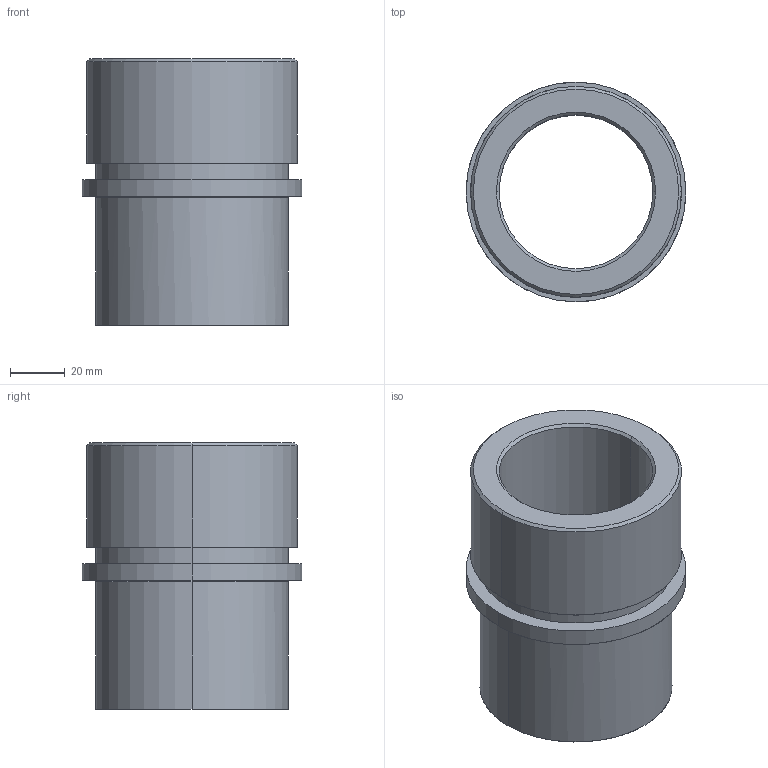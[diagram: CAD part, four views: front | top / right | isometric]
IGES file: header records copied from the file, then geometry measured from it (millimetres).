
Start section: START RECORD GO HERE.
Global section: file name: 735-48.igs; native system: DASSAULT SYSTEMES CATIA V5 R20 - www.3ds.com; preprocessor: CATIA Version 5 Release 20 ; author: Utente; organization: NB04-ASUS; date: 20210116.202003; units: millimetre
Bounding box: 80 x 80 x 97 mm (x, y, z)
Surface area: 46100.3 mm2 (no closed solid volume)
Topology: 0 solids, 0 shells, 25 faces, 100 edges, 100 vertices
Faces by surface type: revolution 20, plane 5
